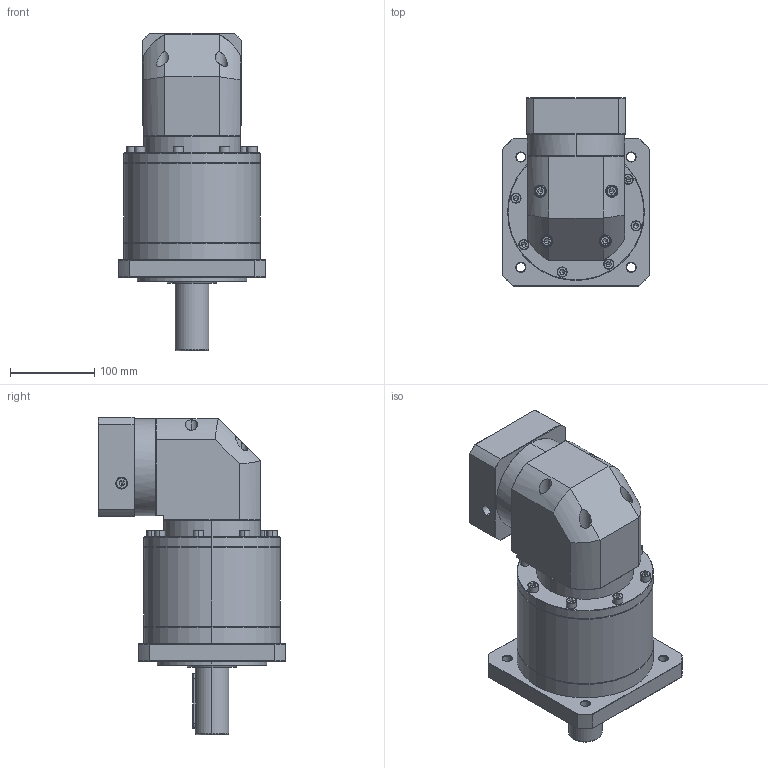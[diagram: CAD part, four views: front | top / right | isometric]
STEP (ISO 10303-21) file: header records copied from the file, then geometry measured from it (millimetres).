
FILE_DESCRIPTION (( 'STEP AP214' ), '1' );
FILE_NAME ('ZFR160A-D40-L3-P2-22-95-115-M8.step', '2023-09-03T09:42:16', ( '' ), ( '' ), 'SwSTEP 2.0', 'SolidWorks 2016', '' );
FILE_SCHEMA (( 'AUTOMOTIVE_DESIGN' ));
Length unit declared in the file: millimetre
Products named in the file (1): ZFR160A-D40-L3-P2-22-95-115-M8
Bounding box: 175 x 222.4 x 376.2 mm (x, y, z)
Volume: 5644659.2 mm3; surface area: 358917.8 mm2
Topology: 6 solids, 6 shells, 2473 faces, 6468 edges, 4122 vertices
Faces by surface type: plane 1146, cylinder 499, bspline 411, cone 371, torus 46
Entity records: 133024 total; most frequent: CARTESIAN_POINT 50376, ORIENTED_EDGE 12828, DIRECTION 9755, EDGE_CURVE 6414, VERTEX_POINT 4122, LINE 3443, VECTOR 3443, AXIS2_PLACEMENT_3D 3156
